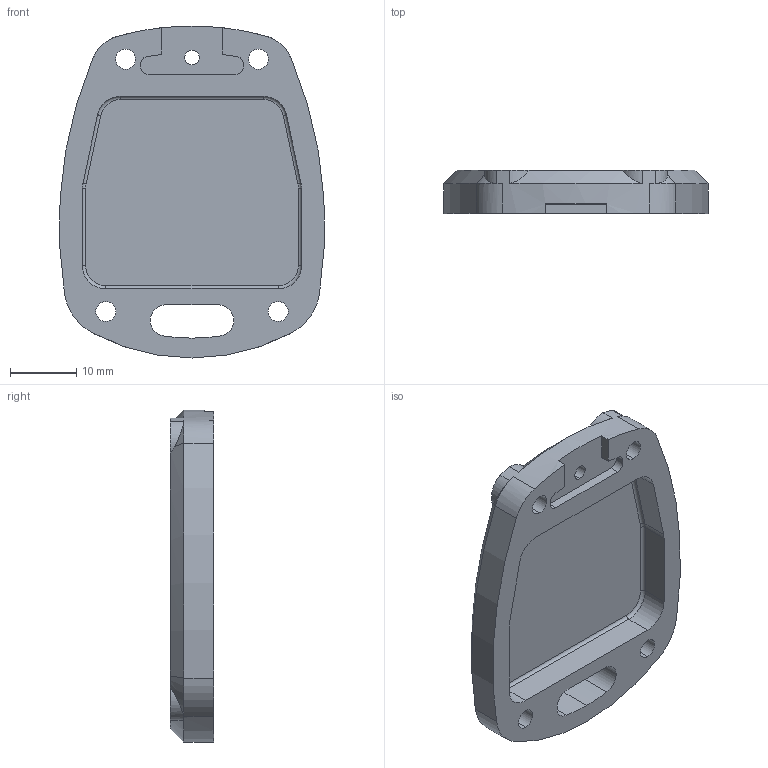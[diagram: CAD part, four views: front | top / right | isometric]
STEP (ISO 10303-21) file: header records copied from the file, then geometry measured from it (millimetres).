
FILE_DESCRIPTION (( 'STEP AP203' ), '1' );
FILE_NAME ('KeyCasing-RP.STEP', '2023-10-08T21:42:06', ( '' ), ( '' ), 'SwSTEP 2.0', 'SolidWorks 2013', '' );
FILE_SCHEMA (( 'CONFIG_CONTROL_DESIGN' ));
Length unit declared in the file: millimetre
Products named in the file (1): KeyCasing-RP
Bounding box: 39.85 x 6.5 x 50 mm (x, y, z)
Volume: 5958.2 mm3; surface area: 5183.4 mm2
Topology: 1 solids, 1 shells, 109 faces, 271 edges, 165 vertices
Faces by surface type: cylinder 58, cone 21, plane 21, torus 9
Entity records: 3443 total; most frequent: CARTESIAN_POINT 660, DIRECTION 622, ORIENTED_EDGE 542, EDGE_CURVE 271, AXIS2_PLACEMENT_3D 253, VERTEX_POINT 165, CIRCLE 143, EDGE_LOOP 122
